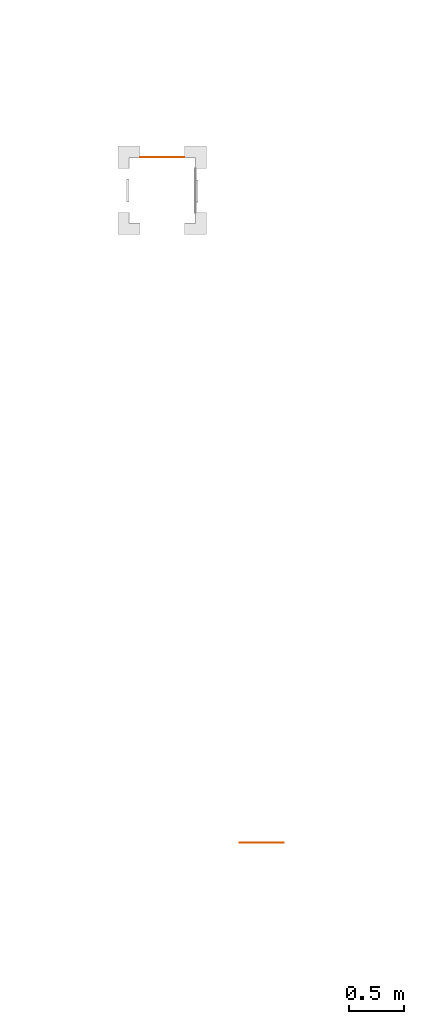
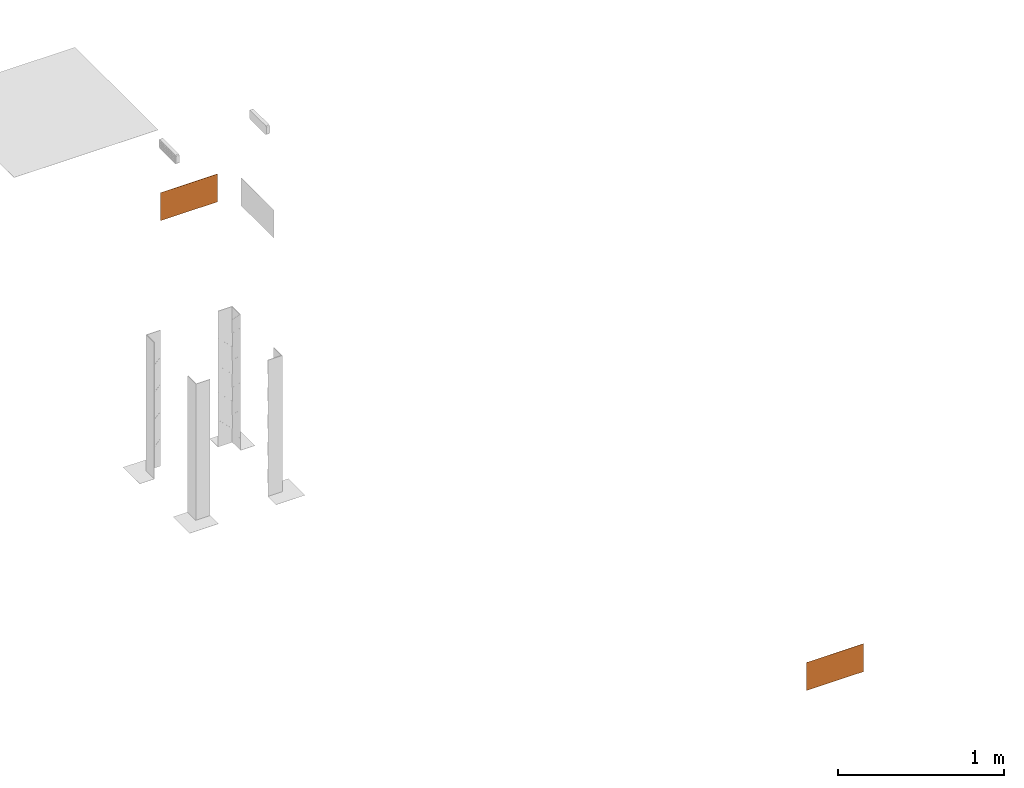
# One storey, part 24 of 119: 2 proxies.
"""IFC2X3 building model written with IfcOpenShell, lengths in metres."""

from ifc_helpers import new_model, entity, si_unit, converted_unit, derived_unit, direction, frame, frame_2d, origin, origin_2d_with_axis, place, context, subcontext, project, spatial, polyline, circle_curve, parameter, trimmed, segment, composite_curve, rectangle, outline, extrude, source, transform, mapped, material, material_list, type_object, type_shapes, element, save


model = new_model("IFC2X3")

# Units and contexts
model_context = context("Model", 3, precision=1e-05, world=origin(), true_north=direction((6.12303176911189e-17, 1.0)))
body_context = subcontext(model_context, "Body", "Model", "MODEL_VIEW")
ifc_project = project(units=[si_unit("LENGTHUNIT", "METRE"), si_unit("AREAUNIT", "SQUARE_METRE"), si_unit("VOLUMEUNIT", "CUBIC_METRE"), converted_unit("PLANEANGLEUNIT", "DEGREE", entity("IfcRatioMeasure", 0.0174532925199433), si_unit("PLANEANGLEUNIT", "RADIAN"), dimensions=[0, 0, 0, 0, 0, 0, 0]), si_unit("MASSUNIT", "GRAM", prefix="KILO"), derived_unit("MASSDENSITYUNIT", [(si_unit("MASSUNIT", "GRAM", prefix="KILO"), 1), (si_unit("LENGTHUNIT", "METRE"), -3)]), derived_unit("MOMENTOFINERTIAUNIT", [(si_unit("LENGTHUNIT", "METRE"), 4)]), si_unit("TIMEUNIT", "SECOND"), si_unit("FREQUENCYUNIT", "HERTZ"), si_unit("THERMODYNAMICTEMPERATUREUNIT", "DEGREE_CELSIUS"), derived_unit("THERMALTRANSMITTANCEUNIT", [(si_unit("MASSUNIT", "GRAM", prefix="KILO"), 1), (si_unit("THERMODYNAMICTEMPERATUREUNIT", "KELVIN"), -1), (si_unit("TIMEUNIT", "SECOND"), -3)]), derived_unit("VOLUMETRICFLOWRATEUNIT", [(si_unit("LENGTHUNIT", "METRE"), 3), (si_unit("TIMEUNIT", "SECOND"), -1)]), si_unit("ELECTRICCURRENTUNIT", "AMPERE"), si_unit("ELECTRICVOLTAGEUNIT", "VOLT"), si_unit("POWERUNIT", "WATT"), si_unit("FORCEUNIT", "NEWTON", prefix="KILO"), si_unit("ILLUMINANCEUNIT", "LUX"), si_unit("LUMINOUSFLUXUNIT", "LUMEN"), si_unit("LUMINOUSINTENSITYUNIT", "CANDELA"), derived_unit("USERDEFINED", [(si_unit("MASSUNIT", "GRAM", prefix="KILO"), -1), (si_unit("LENGTHUNIT", "METRE"), -2), (si_unit("TIMEUNIT", "SECOND"), 3), (si_unit("LUMINOUSFLUXUNIT", "LUMEN"), 1)]), derived_unit("LINEARVELOCITYUNIT", [(si_unit("LENGTHUNIT", "METRE"), 1), (si_unit("TIMEUNIT", "SECOND"), -1)]), si_unit("PRESSUREUNIT", "PASCAL"), derived_unit("USERDEFINED", [(si_unit("LENGTHUNIT", "METRE"), -2), (si_unit("MASSUNIT", "GRAM", prefix="KILO"), 1), (si_unit("TIMEUNIT", "SECOND"), -2)]), derived_unit("LINEARFORCEUNIT", [(si_unit("MASSUNIT", "GRAM", prefix="KILO"), 1), (si_unit("LENGTHUNIT", "METRE"), 1), (si_unit("TIMEUNIT", "SECOND"), -2), (si_unit("LENGTHUNIT", "METRE"), -1)]), derived_unit("PLANARFORCEUNIT", [(si_unit("MASSUNIT", "GRAM", prefix="KILO"), 1), (si_unit("LENGTHUNIT", "METRE"), 1), (si_unit("TIMEUNIT", "SECOND"), -2), (si_unit("LENGTHUNIT", "METRE"), -2)])], contexts=[model_context])

# Site, building, storey
site_placement = place(None, origin())
site = spatial("IfcSite", under=ifc_project, at=site_placement, Name="Default", CompositionType="ELEMENT")
building_placement = place(site_placement, origin())
building = spatial("IfcBuilding", under=site, at=building_placement, CompositionType="ELEMENT")
storey_placement = place(building_placement, origin())
storey = spatial("IfcBuildingStorey", under=building, at=storey_placement, Name="PAV. 01 - TÉRREO", CompositionType="ELEMENT", Elevation=0.0)

# Proxies
ifc_material_1 = material(Name="Plastico branco")
ifc_material_2 = material(Name="Plastico Verde")
ifc_material_list_1 = material_list([ifc_material_1, ifc_material_2])
building_element_proxy_type_1 = type_object("IfcBuildingElementProxyType", Name="Sinalização de orientação - S01 - Indicação do sentido da saída de emergência direita:Distância 12m", PredefinedType="NOTDEFINED", material=ifc_material_1)
shared_shape_1 = source(origin(), body_context, "Body", "SweptSolid", [
    extrude(outline(polyline([(0.0124622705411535, 0.0340163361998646), (0.0116069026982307, 0.0335634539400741), (0.0110082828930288, 0.0323153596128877), (0.0106205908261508, 0.0304379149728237), (0.0103980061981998, 0.0280969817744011), (0.0102947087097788, 0.0254584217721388), (0.0102359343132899, 0.0148408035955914), (0.0100952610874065, 0.0101688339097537), (0.00995272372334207, 0.00797089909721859), (0.00974625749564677, 0.00585117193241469), (0.00946401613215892, 0.00379928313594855), (0.00909414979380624, 0.0018048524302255), (0.00861827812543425, -0.000162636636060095), (0.00799797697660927, -0.00219550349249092), (0.00719098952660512, -0.00439788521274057), (0.00615505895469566, -0.0068739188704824), (0.00484792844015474, -0.00972774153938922), (0.00322734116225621, -0.0130634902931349), (-0.00393772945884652, -0.0270036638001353), (0.00911414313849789, -0.0269659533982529), (0.00975353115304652, -0.0269418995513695), (0.0101589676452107, -0.0269097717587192), (0.0104072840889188, -0.0268684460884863), (0.0105753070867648, -0.026816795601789), (0.0107283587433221, -0.0267465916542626), (0.0108956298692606, -0.0266273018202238), (0.0110992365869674, -0.0264240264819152), (0.0113612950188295, -0.02610186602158), (0.0117039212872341, -0.02562592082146), (0.0121492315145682, -0.0249612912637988), (0.0134363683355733, -0.022926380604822), (0.0220622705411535, -0.00866366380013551), (0.0231418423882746, -0.00739752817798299), (0.024244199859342, -0.00641124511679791), (0.0253551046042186, -0.00568750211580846), (0.026460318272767, -0.0052089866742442), (0.0275456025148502, -0.00495838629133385), (0.0285967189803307, -0.00491838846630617), (0.0295994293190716, -0.00507168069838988), (0.0305394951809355, -0.00540095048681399), (0.0314026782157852, -0.00588888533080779), (0.0321747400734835, -0.00651817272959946), (0.0328414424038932, -0.0072715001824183), (0.033388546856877, -0.00813155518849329), (0.0338018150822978, -0.00908102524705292), (0.0340670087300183, -0.0101025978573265), (0.0341698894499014, -0.0111789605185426), (0.0340962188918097, -0.0122928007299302), (0.0338317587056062, -0.0134268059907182), (0.0333622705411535, -0.0145636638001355), (0.027258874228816, -0.0250738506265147), (0.0231922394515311, -0.0317577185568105), (0.020455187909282, -0.0355759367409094), (0.0183405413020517, -0.0374891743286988), (0.0161486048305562, -0.0384492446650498), (0.0134863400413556, -0.0390450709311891), (0.0103684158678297, -0.0393831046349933), (0.00683771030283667, -0.0395364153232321), (-0.0223273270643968, -0.0395794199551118), (-0.0254276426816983, -0.0395207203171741), (-0.0281392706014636, -0.0392326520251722), (-0.0306250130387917, -0.0385308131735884), (-0.0330476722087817, -0.0372308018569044), (-0.0355700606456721, -0.0351482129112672), (-0.0383972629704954, -0.0320852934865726), (-0.0418729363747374, -0.0278005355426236), (-0.0522577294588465, -0.0145636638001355), (-0.0701177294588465, -0.0145636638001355), (-0.0701177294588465, -0.0855036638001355), (0.0426422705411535, -0.0855036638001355), (0.0426422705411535, 0.0290963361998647), (0.0481022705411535, 0.0290963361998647), (0.0680622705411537, 0.0537563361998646), (0.0426422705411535, 0.0537563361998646), (0.0426422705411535, 0.0764363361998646), (0.0551222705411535, 0.0891363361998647), (-0.0240977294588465, 0.0891363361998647), (-0.0371577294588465, 0.0764363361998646), (-0.0542977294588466, 0.0764363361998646), (-0.039344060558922, 0.0891363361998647), (-0.0579777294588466, 0.0891363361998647), (-0.0701177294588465, 0.0764363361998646), (-0.0701177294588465, -0.00182366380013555), (-0.0500921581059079, -0.00182052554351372), (-0.048376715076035, -0.00187323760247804), (-0.0469973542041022, -0.00203451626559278), (-0.0458400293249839, -0.00235707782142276), (-0.0447906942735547, -0.00289363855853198), (-0.0437353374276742, -0.0036968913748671), (-0.0425823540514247, -0.00480435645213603), (-0.0413011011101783, -0.00621227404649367), (-0.0398712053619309, -0.00790993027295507), (-0.0322577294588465, -0.0173836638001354), (-0.0217377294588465, 0.00417633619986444), (-0.0542977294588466, 0.0709363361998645), (-0.0371577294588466, 0.0709363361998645), (-0.00639772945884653, 0.0127763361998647), (-0.00393772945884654, 0.0340163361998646), (-0.00373167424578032, 0.0366224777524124), (-0.00346846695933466, 0.0389264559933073), (-0.00310194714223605, 0.0409426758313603), (-0.00258595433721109, 0.0426855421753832), (-0.00187432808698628, 0.0441694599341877), (-0.000920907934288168, 0.0454088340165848), (0.000320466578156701, 0.0464180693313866), (0.00189595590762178, 0.0472115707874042), (0.00385172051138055, 0.0478037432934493), (0.00623392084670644, 0.0482089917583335), (0.00908871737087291, 0.0484417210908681), (0.0124622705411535, 0.0485163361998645), (0.0551222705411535, 0.0485163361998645), (0.0426422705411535, 0.0340163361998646), (0.0124622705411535, 0.0340163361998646)]), holes=[composite_curve([segment(trimmed(circle_curve(frame_2d((-0.0288977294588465, -0.0559436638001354), x_axis=(-1.0, 0.0)), 0.0134), [parameter(180.0)], [parameter(360.0)], True, "PARAMETER"), False, "CONTINUOUS"), segment(trimmed(circle_curve(frame_2d((-0.0288977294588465, -0.0559436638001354), x_axis=(-1.0, 0.0)), 0.0134), [parameter(2.03555499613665e-13)], [parameter(180.0)], True, "PARAMETER"), False, "CONTINUOUS")], self_intersect=False)]), frame((-0.112957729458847, -0.00110000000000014, 1.90431633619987), z_axis=(0.0, -1.0, 0.0), x_axis=(-1.0, 0.0, 0.0)), (0.0, 0.0, -1.0), 0.0011),
    extrude(outline(polyline([(-0.102500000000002, -0.197500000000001), (0.102500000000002, -0.197500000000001), (0.102500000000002, 0.197500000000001), (-0.102500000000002, 0.197500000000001), (-0.102500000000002, -0.197500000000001)]), holes=[polyline([(-0.0950000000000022, -0.190000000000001), (-0.0950000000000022, 0.189999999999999), (0.0949999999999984, 0.189999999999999), (0.0949999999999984, -0.190000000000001), (-0.0950000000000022, -0.190000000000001)])]), frame((0.0, -0.0011, 1.9025), z_axis=(0.0, 1.0, 0.0), x_axis=(0.0, 0.0, -1.0)), (0.0, 0.0, 1.0), 0.0011),
    extrude(rectangle(XDim=0.001, YDim=0.38, at=origin_2d_with_axis()), frame((0.0, -0.0005, 1.8075), z_axis=(0.0, 0.0, 1.0), x_axis=(0.0, 1.0, 0.0)), (0.0, 0.0, 1.0), 0.190000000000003),
    extrude(outline(polyline([(-0.0165808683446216, -0.0648778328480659), (0.0648778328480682, -0.0648778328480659), (0.0648778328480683, 0.016580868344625), (0.0289709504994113, 0.0524877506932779), (0.0289709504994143, -0.00190290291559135), (-0.0467319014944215, 0.073799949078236), (-0.0737999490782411, 0.0467319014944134), (0.00190290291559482, -0.0289709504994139), (-0.0524877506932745, -0.028970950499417), (-0.0165808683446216, -0.0648778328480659)])), frame((0.0852288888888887, -0.0011, 1.9025), z_axis=(0.0, 1.0, 0.0), x_axis=(0.707106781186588, 0.0, -0.707106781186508)), (0.0, 0.0, 1.0), 0.0011),
])
type_shapes(building_element_proxy_type_1, [shared_shape_1])
proxy_1_placement = place(storey_placement, frame((6.17387515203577, 0.728683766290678, 0.0), z_axis=(0.0, 0.0, 1.0), x_axis=(-1.0, 0.0, 0.0)))
element("IfcBuildingElementProxy", 1, at=proxy_1_placement, inside=storey, type_object=building_element_proxy_type_1, material=ifc_material_list_1, Name="Sinalização de orientação - S01 - Indicação do sentido da saída de emergência direita:Distância 12m", ObjectType="Sinalização de orientação - S01 - Indicação do sentido da saída de emergência direita:Distância 12m", context=body_context, shape_type="MappedRepresentation", body=[
    mapped(shared_shape_1, transform((0.0, 0.0, 0.0), scale=1.0)),
])
ifc_material_list_2 = material_list([ifc_material_1, ifc_material_2])
building_element_proxy_type_2 = type_object("IfcBuildingElementProxyType", Name="Sinalização de orientação - S02 - Indicação do sentido da saída de emergência esquerda:Distância 12m", PredefinedType="NOTDEFINED", material=ifc_material_1)
shared_shape_2 = source(origin(), body_context, "Body", "SweptSolid", [
    extrude(outline(polyline([(-0.0269307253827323, -0.024231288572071), (-0.0259628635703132, -0.024231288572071), (-0.0248498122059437, -0.0234083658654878), (-0.0236286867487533, -0.0219305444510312), (-0.0223366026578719, -0.0199658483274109), (-0.0210106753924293, -0.0176823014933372), (-0.0159905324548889, -0.00832626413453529), (-0.0136800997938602, -0.00426313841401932), (-0.0125256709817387, -0.00238736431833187), (-0.0113513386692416, -0.000610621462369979), (-0.0101417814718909, 0.0010707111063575), (-0.00888166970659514, 0.00266026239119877), (-0.00754048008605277, 0.00417640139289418), (-0.00604105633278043, 0.00568273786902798), (-0.00429732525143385, 0.00725153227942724), (-0.00222321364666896, 0.00895504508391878), (0.000267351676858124, 0.010865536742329), (0.0161156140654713, 0.0220225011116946), (0.00541084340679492, 0.027666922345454), (0.004563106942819, 0.0280964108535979), (0.00398677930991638, 0.0283743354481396), (0.00361343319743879, 0.0285356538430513), (0.00337464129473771, 0.0286153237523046), (0.0032019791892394, 0.0286482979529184), (0.00303386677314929, 0.0286578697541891), (0.00283021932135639, 0.0286307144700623), (0.00255516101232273, 0.02854633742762), (0.00217281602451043, 0.0283842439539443), (0.00164730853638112, 0.0281239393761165), (0.000942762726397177, 0.0277449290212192), (-0.0154440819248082, 0.0179800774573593), (-0.0169906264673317, 0.0173662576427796), (-0.0184263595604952, 0.0170104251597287), (-0.0197467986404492, 0.0168906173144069), (-0.0209474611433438, 0.0169848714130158), (-0.0220238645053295, 0.017271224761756), (-0.0229715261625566, 0.0177277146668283), (-0.0237859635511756, 0.0183323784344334), (-0.0244626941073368, 0.0190632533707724), (-0.0249972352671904, 0.0198983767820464), (-0.025385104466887, 0.0208157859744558), (-0.0256218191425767, 0.0217935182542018), (-0.02570289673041, 0.0228096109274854), (-0.0256238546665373, 0.023842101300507), (-0.0253802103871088, 0.024869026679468), (-0.024967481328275, 0.0258684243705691), (-0.0243811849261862, 0.026818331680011), (-0.0236168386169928, 0.0276967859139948), (-0.022669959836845, 0.0284818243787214), (-0.012358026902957, 0.0349145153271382), (-0.0056365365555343, 0.0389186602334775), (-0.00143098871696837, 0.0410123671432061), (0.00133311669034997, 0.0417137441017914), (0.00371952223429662, 0.0415365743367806), (0.00635115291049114, 0.0408174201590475), (0.00926485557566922, 0.0396572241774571), (0.0124569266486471, 0.0381406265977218), (0.0382522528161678, 0.0245317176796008), (0.0409647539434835, 0.0230291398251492), (0.0432264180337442, 0.021505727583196), (0.0450948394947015, 0.0197223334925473), (0.0466276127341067, 0.0174398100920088), (0.0478823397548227, 0.0144190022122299), (0.0489477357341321, 0.0103891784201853), (0.0500145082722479, 0.00497609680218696), (0.0529984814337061, -0.0115815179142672), (0.0687826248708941, -0.0199385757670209), (0.101976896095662, 0.0427561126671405), (0.00232291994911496, 0.0955188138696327), (-0.0513007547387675, -0.00576130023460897), (-0.0561261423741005, -0.00320645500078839), (-0.0853051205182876, -0.0156605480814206), (-0.0628396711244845, -0.0275550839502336), (-0.0734521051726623, -0.0475990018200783), (-0.0904241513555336, -0.0529832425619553), (-0.0204118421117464, -0.0900518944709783), (-0.00292720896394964, -0.0849390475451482), (0.0122206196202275, -0.0929592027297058), (-0.00693758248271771, -0.0971859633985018), (0.00953030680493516, -0.105905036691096), (0.0262018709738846, -0.100361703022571), (0.0628213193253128, -0.0311978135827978), (0.0451218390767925, -0.0218302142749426), (0.0436304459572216, -0.0209809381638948), (0.0424868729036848, -0.020192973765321), (0.041614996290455, -0.0193663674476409), (0.0409386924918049, -0.0184011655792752), (0.0403818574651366, -0.0171974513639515), (0.0398810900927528, -0.0156792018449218), (0.0394075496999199, -0.0138354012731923), (0.0389382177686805, -0.0116659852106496), (0.0366426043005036, 0.000269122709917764), (0.0172569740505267, -0.0138624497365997), (0.0147941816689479, -0.0880984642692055), (-0.000353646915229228, -0.0800783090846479), (-0.000324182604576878, -0.0142849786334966), (-0.0124368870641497, -0.0319051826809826), (-0.0138384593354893, -0.0341119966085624), (-0.0151491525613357, -0.0360250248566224), (-0.0164165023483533, -0.0376353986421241), (-0.0176880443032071, -0.0389342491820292), (-0.0190113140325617, -0.0399127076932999), (-0.0204338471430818, -0.0405619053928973), (-0.0220031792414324, -0.0408729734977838), (-0.0237668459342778, -0.0408370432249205), (-0.025772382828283, -0.0404452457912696), (-0.0280673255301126, -0.0396887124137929), (-0.0306992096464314, -0.0385585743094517), (-0.0337155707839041, -0.0370459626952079), (-0.0714172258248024, -0.0170844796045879), (-0.0536029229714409, -0.0101094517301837), (-0.0269307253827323, -0.024231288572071)]), holes=[composite_curve([segment(trimmed(circle_curve(frame_2d((0.0517161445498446, 0.0359195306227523), x_axis=(0.883770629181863, -0.46792037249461)), 0.0134), [parameter(180.0)], [parameter(360.0)], True, "PARAMETER"), False, "CONTINUOUS"), segment(trimmed(circle_curve(frame_2d((0.0517161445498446, 0.0359195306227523), x_axis=(0.883770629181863, -0.46792037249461)), 0.0134), [parameter(2.03555499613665e-13)], [parameter(180.0)], True, "PARAMETER"), False, "CONTINUOUS")], self_intersect=False)]), frame((0.112957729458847, -0.00110000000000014, 1.90431633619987), z_axis=(0.0, 1.0, 0.0), x_axis=(-0.883770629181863, 0.0, 0.46792037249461)), (0.0, 0.0, 1.0), 0.0011),
    extrude(outline(polyline([(-0.197500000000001, -0.102500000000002), (0.197500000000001, -0.102500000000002), (0.197500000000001, 0.102500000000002), (-0.197500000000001, 0.102500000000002), (-0.197500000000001, -0.102500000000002)]), holes=[polyline([(-0.190000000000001, -0.0950000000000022), (-0.190000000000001, 0.0949999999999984), (0.189999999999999, 0.0949999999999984), (0.189999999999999, -0.0950000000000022), (-0.190000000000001, -0.0950000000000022)])]), frame((0.0, -0.0011, 1.9025), z_axis=(0.0, 1.0, 0.0), x_axis=(1.0, 0.0, 0.0)), (0.0, 0.0, 1.0), 0.0011),
    extrude(rectangle(XDim=0.38, YDim=0.001, at=origin_2d_with_axis()), frame((0.0, -0.0005, 1.8075)), (0.0, 0.0, 1.0), 0.190000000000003),
    extrude(outline(polyline([(-0.0341511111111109, -0.0575999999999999), (0.016628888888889, -0.0575999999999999), (-0.0218311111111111, -0.0191399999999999), (0.0852288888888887, -0.0191399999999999), (0.0852288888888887, 0.0191400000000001), (-0.0218311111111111, 0.0191400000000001), (0.016628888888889, 0.0576000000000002), (-0.0341511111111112, 0.0576000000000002), (-0.0917511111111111, 0.0), (-0.0341511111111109, -0.0575999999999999)])), frame((-0.0852288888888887, -0.0011, 1.9025), z_axis=(0.0, 1.0, 0.0), x_axis=(1.0, 0.0, 0.0)), (0.0, 0.0, 1.0), 0.0011),
])
type_shapes(building_element_proxy_type_2, [shared_shape_2])
proxy_2_placement = place(storey_placement, frame((7.07396764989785, -5.47661806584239, 0.0), z_axis=(0.0, 0.0, 1.0), x_axis=(-1.0, 0.0, 0.0)))
element("IfcBuildingElementProxy", 2, at=proxy_2_placement, inside=storey, type_object=building_element_proxy_type_2, material=ifc_material_list_2, Name="Sinalização de orientação - S02 - Indicação do sentido da saída de emergência esquerda:Distância 12m", ObjectType="Sinalização de orientação - S02 - Indicação do sentido da saída de emergência esquerda:Distância 12m", context=body_context, shape_type="MappedRepresentation", body=[
    mapped(shared_shape_2, transform((0.0, 0.0, 0.0), scale=1.0)),
])

save(model, "model.ifc")
